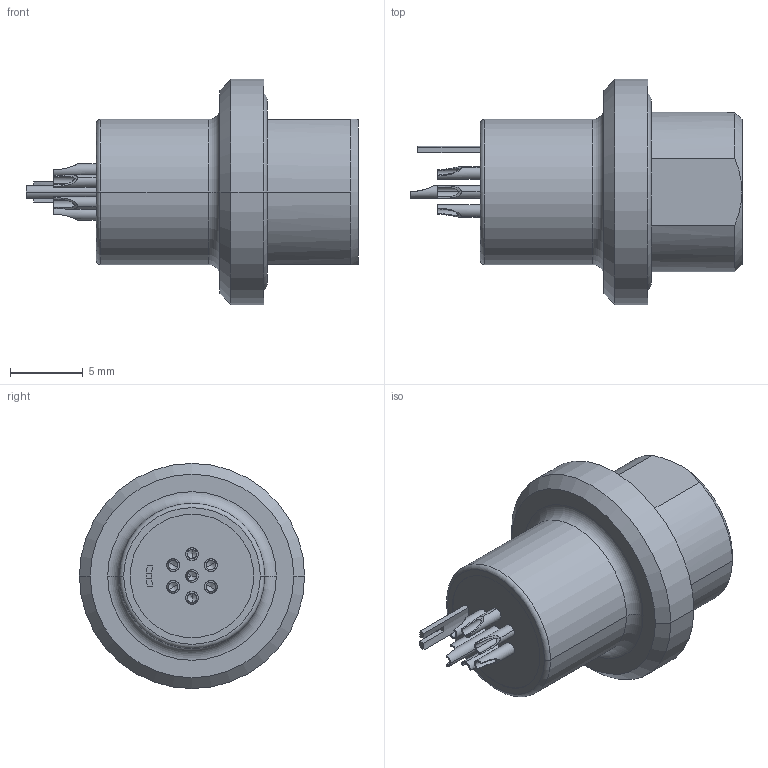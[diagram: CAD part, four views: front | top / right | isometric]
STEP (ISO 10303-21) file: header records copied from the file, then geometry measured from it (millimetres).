
FILE_DESCRIPTION((''),'2;1');
FILE_NAME('00050302--_ASM','2020-10-26T14:26:27',('EUnterhaslberger'),(''),'CREO PARAMETRIC BY PTC INC, 2018300','CREO PARAMETRIC BY PTC INC, 2018300','');
FILE_SCHEMA(('AP242_MANAGED_MODEL_BASED_3D_ENGINEERING_MIM_LF { 1 0 10303 442 1 1 4 }'));
Length unit declared in the file: millimetre
Products named in the file (5): TEMP_SW_STEP_MONOBLOCK_1_1; TEMP_SW_STEP_MONOBLOCK_1_2; TEMP_SW_STEP_MONOBLOCK_1_3; TEMP_SW_STEP_MONOBLOCK_1_ASM; 00050302--_ASM
Assembly tree (4 placements, depth 3):
  00050302--_ASM
    TEMP_SW_STEP_MONOBLOCK_1_ASM
      TEMP_SW_STEP_MONOBLOCK_1_1
      TEMP_SW_STEP_MONOBLOCK_1_2
      TEMP_SW_STEP_MONOBLOCK_1_3
Bounding box: 22.84 x 15.5 x 15.5 mm (x, y, z)
Volume: 1412.8 mm3; surface area: 1796.3 mm2
Topology: 3 solids, 3 shells, 239 faces, 580 edges, 354 vertices
Faces by surface type: cylinder 104, plane 59, torus 31, cone 30, sphere 15
Entity records: 9447 total; most frequent: CARTESIAN_POINT 1774, DIRECTION 1310, ORIENTED_EDGE 1104, AXIS2_PLACEMENT_3D 553, EDGE_CURVE 552, VERTEX_POINT 354, CIRCLE 302, EDGE_LOOP 278
